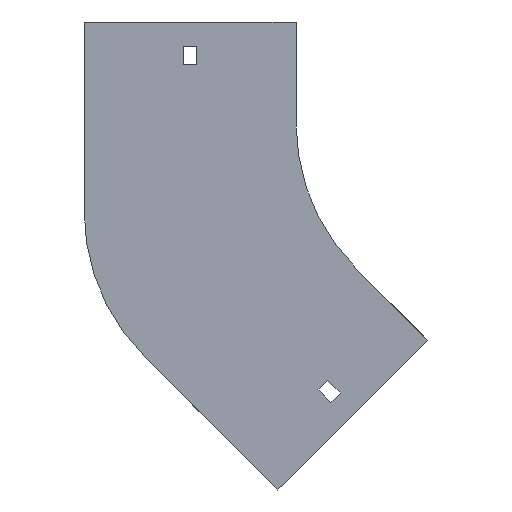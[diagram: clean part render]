
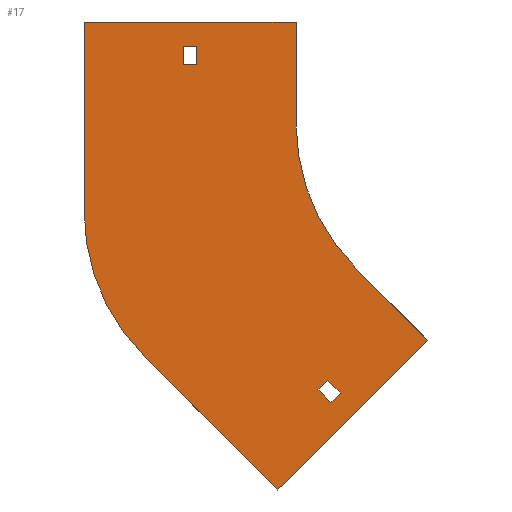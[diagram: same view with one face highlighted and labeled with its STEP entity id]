
A CAD part, front view. The second image highlights one B-rep face of the part: STEP entity #17.
In plain terms, the highlighted planar face has unit normal (0, -1, 0).
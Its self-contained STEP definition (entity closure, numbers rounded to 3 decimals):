
#17 = ADVANCED_FACE ( 'NONE', ( #822, #1571, #1590 ), #671, .T. ) ;
#50 = LINE ( 'NONE', #1845, #781 ) ;
#76 = CARTESIAN_POINT ( 'NONE',  ( -100., 0., 50. ) ) ;
#79 = VECTOR ( 'NONE', #930, 1000. ) ;
#118 = VERTEX_POINT ( 'NONE', #983 ) ;
#133 = CARTESIAN_POINT ( 'NONE',  ( -155.25, 0., 29. ) ) ;
#135 = ORIENTED_EDGE ( 'NONE', *, *, #454, .F. ) ;
#147 = CARTESIAN_POINT ( 'NONE',  ( -148.75, 0., 29. ) ) ;
#150 = CIRCLE ( 'NONE', #1280, 100. ) ;
#153 = ORIENTED_EDGE ( 'NONE', *, *, #254, .F. ) ;
#161 = ORIENTED_EDGE ( 'NONE', *, *, #527, .F. ) ;
#162 = DIRECTION ( 'NONE',  ( 0., 0., 1. ) ) ;
#164 = VERTEX_POINT ( 'NONE', #1166 ) ;
#190 = CARTESIAN_POINT ( 'NONE',  ( -82.908, 0., -136.648 ) ) ;
#197 = CARTESIAN_POINT ( 'NONE',  ( -104., 0., -43.078 ) ) ;
#201 = DIRECTION ( 'NONE',  ( 0.707, 0., 0.707 ) ) ;
#206 = VERTEX_POINT ( 'NONE', #1618 ) ;
#235 = DIRECTION ( 'NONE',  ( 0.707, 0., -0.707 ) ) ;
#245 = ORIENTED_EDGE ( 'NONE', *, *, #422, .F. ) ;
#254 = EDGE_CURVE ( 'NONE', #324, #1598, #1124, .T. ) ;
#278 = DIRECTION ( 'NONE',  ( 0.707, 0., -0.707 ) ) ;
#288 = CARTESIAN_POINT ( 'NONE',  ( -148.75, 0., 38. ) ) ;
#290 = DIRECTION ( 'NONE',  ( -0.707, 0., 0.707 ) ) ;
#324 = VERTEX_POINT ( 'NONE', #727 ) ;
#329 = LINE ( 'NONE', #1232, #79 ) ;
#380 = CARTESIAN_POINT ( 'NONE',  ( -155.25, 0., 29. ) ) ;
#382 = CARTESIAN_POINT ( 'NONE',  ( -155.25, 0., 29. ) ) ;
#408 = ORIENTED_EDGE ( 'NONE', *, *, #1836, .F. ) ;
#411 = CARTESIAN_POINT ( 'NONE',  ( -78.312, 0., -132.052 ) ) ;
#422 = EDGE_CURVE ( 'NONE', #1768, #118, #150, .T. ) ;
#434 = DIRECTION ( 'NONE',  ( -1., 0., 0. ) ) ;
#436 = CARTESIAN_POINT ( 'NONE',  ( -89.272, 0., -130.284 ) ) ;
#454 = EDGE_CURVE ( 'NONE', #1170, #1513, #775, .T. ) ;
#487 = CARTESIAN_POINT ( 'NONE',  ( -35.355, 0., -106.066 ) ) ;
#498 = VECTOR ( 'NONE', #1052, 1000. ) ;
#502 = CARTESIAN_POINT ( 'NONE',  ( -100., 0., 50. ) ) ;
#522 = VECTOR ( 'NONE', #802, 1000. ) ;
#527 = EDGE_CURVE ( 'NONE', #1513, #324, #1660, .T. ) ;
#536 = EDGE_CURVE ( 'NONE', #976, #164, #886, .T. ) ;
#538 = CARTESIAN_POINT ( 'NONE',  ( -82.908, 0., -136.648 ) ) ;
#554 = VERTEX_POINT ( 'NONE', #1787 ) ;
#558 = CARTESIAN_POINT ( 'NONE',  ( -204., 0., -43.078 ) ) ;
#593 = VERTEX_POINT ( 'NONE', #502 ) ;
#634 = VERTEX_POINT ( 'NONE', #1256 ) ;
#670 = EDGE_CURVE ( 'NONE', #554, #593, #50, .T. ) ;
#671 = PLANE ( 'NONE',  #1219 ) ;
#727 = CARTESIAN_POINT ( 'NONE',  ( -89.272, 0., -130.284 ) ) ;
#740 = CARTESIAN_POINT ( 'NONE',  ( -100., 0., 0. ) ) ;
#754 = DIRECTION ( 'NONE',  ( 0., 0., -1. ) ) ;
#761 = EDGE_CURVE ( 'NONE', #164, #1666, #1255, .T. ) ;
#766 = EDGE_CURVE ( 'NONE', #1420, #634, #329, .T. ) ;
#775 = LINE ( 'NONE', #1344, #1885 ) ;
#781 = VECTOR ( 'NONE', #1111, 1000. ) ;
#783 = CARTESIAN_POINT ( 'NONE',  ( -108.894, 0., -179.605 ) ) ;
#797 = EDGE_CURVE ( 'NONE', #634, #894, #1713, .T. ) ;
#802 = DIRECTION ( 'NONE',  ( 1., 0., 0. ) ) ;
#817 = ORIENTED_EDGE ( 'NONE', *, *, #1635, .T. ) ;
#822 = FACE_BOUND ( 'NONE', #1915, .T. ) ;
#826 = EDGE_LOOP ( 'NONE', ( #1031, #153, #161, #135 ) ) ;
#875 = VECTOR ( 'NONE', #1147, 1000. ) ;
#886 = LINE ( 'NONE', #133, #1006 ) ;
#894 = VERTEX_POINT ( 'NONE', #1212 ) ;
#903 = VECTOR ( 'NONE', #201, 1000. ) ;
#913 = DIRECTION ( 'NONE',  ( 0., 0., 1. ) ) ;
#930 = DIRECTION ( 'NONE',  ( -0.707, 0., -0.707 ) ) ;
#945 = VECTOR ( 'NONE', #235, 1000. ) ;
#960 = ORIENTED_EDGE ( 'NONE', *, *, #1211, .T. ) ;
#976 = VERTEX_POINT ( 'NONE', #382 ) ;
#983 = CARTESIAN_POINT ( 'NONE',  ( -70.711, 0., -70.711 ) ) ;
#1001 = VECTOR ( 'NONE', #1121, 1000. ) ;
#1006 = VECTOR ( 'NONE', #913, 1000. ) ;
#1013 = ORIENTED_EDGE ( 'NONE', *, *, #1226, .F. ) ;
#1030 = CARTESIAN_POINT ( 'NONE',  ( -89.272, 0., -130.284 ) ) ;
#1031 = ORIENTED_EDGE ( 'NONE', *, *, #1572, .F. ) ;
#1052 = DIRECTION ( 'NONE',  ( 0., 0., -1. ) ) ;
#1092 = VECTOR ( 'NONE', #1189, 1000. ) ;
#1096 = ORIENTED_EDGE ( 'NONE', *, *, #670, .F. ) ;
#1111 = DIRECTION ( 'NONE',  ( 1., 0., 0. ) ) ;
#1121 = DIRECTION ( 'NONE',  ( 0., 0., -1. ) ) ;
#1124 = LINE ( 'NONE', #436, #945 ) ;
#1132 = CARTESIAN_POINT ( 'NONE',  ( -148.75, 0., 29. ) ) ;
#1147 = DIRECTION ( 'NONE',  ( 0., 0., 1. ) ) ;
#1148 = DIRECTION ( 'NONE',  ( 0., 0., -1. ) ) ;
#1149 = EDGE_CURVE ( 'NONE', #118, #1420, #1620, .T. ) ;
#1166 = CARTESIAN_POINT ( 'NONE',  ( -155.25, 0., 38. ) ) ;
#1170 = VERTEX_POINT ( 'NONE', #411 ) ;
#1172 = VECTOR ( 'NONE', #1381, 1000. ) ;
#1189 = DIRECTION ( 'NONE',  ( -0.707, 0., -0.707 ) ) ;
#1211 = EDGE_CURVE ( 'NONE', #1666, #1922, #1950, .T. ) ;
#1212 = CARTESIAN_POINT ( 'NONE',  ( -174.711, 0., -113.789 ) ) ;
#1213 = ORIENTED_EDGE ( 'NONE', *, *, #1149, .F. ) ;
#1219 = AXIS2_PLACEMENT_3D ( 'NONE', #1580, #1907, #1148 ) ;
#1226 = EDGE_CURVE ( 'NONE', #593, #1768, #1257, .T. ) ;
#1231 = DIRECTION ( 'NONE',  ( 0., 1., 0. ) ) ;
#1232 = CARTESIAN_POINT ( 'NONE',  ( -35.355, 0., -106.066 ) ) ;
#1255 = LINE ( 'NONE', #1669, #522 ) ;
#1256 = CARTESIAN_POINT ( 'NONE',  ( -108.894, 0., -179.605 ) ) ;
#1257 = LINE ( 'NONE', #76, #1001 ) ;
#1280 = AXIS2_PLACEMENT_3D ( 'NONE', #1354, #1360, #754 ) ;
#1306 = ORIENTED_EDGE ( 'NONE', *, *, #1661, .F. ) ;
#1340 = VECTOR ( 'NONE', #434, 1000. ) ;
#1344 = CARTESIAN_POINT ( 'NONE',  ( -84.676, 0., -125.688 ) ) ;
#1353 = LINE ( 'NONE', #558, #875 ) ;
#1354 = CARTESIAN_POINT ( 'NONE',  ( 0., 0., 0. ) ) ;
#1360 = DIRECTION ( 'NONE',  ( 0., -1., 0. ) ) ;
#1371 = CIRCLE ( 'NONE', #1559, 100. ) ;
#1381 = DIRECTION ( 'NONE',  ( -0.707, 0., 0.707 ) ) ;
#1404 = LINE ( 'NONE', #538, #903 ) ;
#1420 = VERTEX_POINT ( 'NONE', #487 ) ;
#1433 = VECTOR ( 'NONE', #278, 1000. ) ;
#1448 = CARTESIAN_POINT ( 'NONE',  ( -70.711, 0., -70.711 ) ) ;
#1513 = VERTEX_POINT ( 'NONE', #1851 ) ;
#1559 = AXIS2_PLACEMENT_3D ( 'NONE', #197, #1231, #162 ) ;
#1571 = FACE_OUTER_BOUND ( 'NONE', #1609, .T. ) ;
#1572 = EDGE_CURVE ( 'NONE', #1598, #1170, #1404, .T. ) ;
#1578 = ORIENTED_EDGE ( 'NONE', *, *, #536, .T. ) ;
#1580 = CARTESIAN_POINT ( 'NONE',  ( 0., 0., 0. ) ) ;
#1590 = FACE_BOUND ( 'NONE', #826, .T. ) ;
#1598 = VERTEX_POINT ( 'NONE', #190 ) ;
#1609 = EDGE_LOOP ( 'NONE', ( #1096, #1306, #408, #1695, #1650, #1213, #245, #1013 ) ) ;
#1618 = CARTESIAN_POINT ( 'NONE',  ( -204., 0., -43.078 ) ) ;
#1620 = LINE ( 'NONE', #1448, #1433 ) ;
#1635 = EDGE_CURVE ( 'NONE', #1922, #976, #1720, .T. ) ;
#1650 = ORIENTED_EDGE ( 'NONE', *, *, #766, .F. ) ;
#1660 = LINE ( 'NONE', #1030, #1092 ) ;
#1661 = EDGE_CURVE ( 'NONE', #206, #554, #1353, .T. ) ;
#1666 = VERTEX_POINT ( 'NONE', #288 ) ;
#1669 = CARTESIAN_POINT ( 'NONE',  ( -155.25, 0., 38. ) ) ;
#1682 = ORIENTED_EDGE ( 'NONE', *, *, #761, .T. ) ;
#1695 = ORIENTED_EDGE ( 'NONE', *, *, #797, .F. ) ;
#1713 = LINE ( 'NONE', #783, #1172 ) ;
#1720 = LINE ( 'NONE', #380, #1340 ) ;
#1768 = VERTEX_POINT ( 'NONE', #740 ) ;
#1787 = CARTESIAN_POINT ( 'NONE',  ( -204., 0., 50. ) ) ;
#1836 = EDGE_CURVE ( 'NONE', #894, #206, #1371, .T. ) ;
#1845 = CARTESIAN_POINT ( 'NONE',  ( -204., 0., 50. ) ) ;
#1851 = CARTESIAN_POINT ( 'NONE',  ( -84.676, 0., -125.688 ) ) ;
#1885 = VECTOR ( 'NONE', #290, 1000. ) ;
#1907 = DIRECTION ( 'NONE',  ( 0., -1., 0. ) ) ;
#1915 = EDGE_LOOP ( 'NONE', ( #1578, #1682, #960, #817 ) ) ;
#1922 = VERTEX_POINT ( 'NONE', #1132 ) ;
#1950 = LINE ( 'NONE', #147, #498 ) ;
